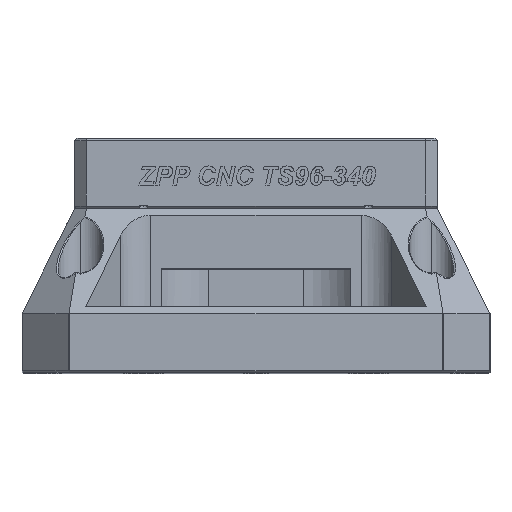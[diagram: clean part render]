
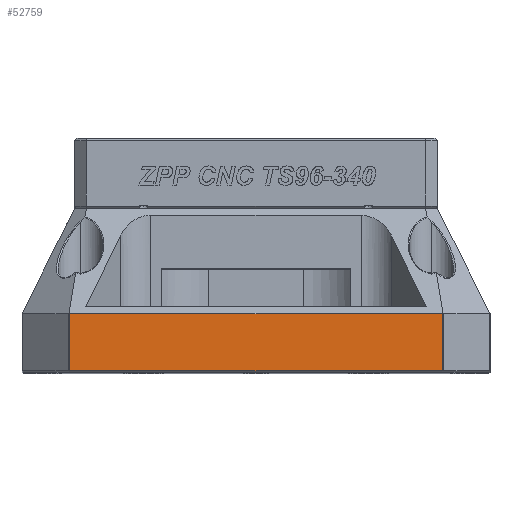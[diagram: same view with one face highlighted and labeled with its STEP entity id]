
A CAD part, top view. The second image highlights one B-rep face of the part: STEP entity #52759.
In plain terms, the highlighted planar face has unit normal (0, 0, 1) as drawn and (1, 0, 0) by its records, which use the part's own axes.
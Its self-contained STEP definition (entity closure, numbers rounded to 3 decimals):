
#31793=CARTESIAN_POINT('',(215.,25.,-79.586));
#31801=CARTESIAN_POINT('',(215.,25.,79.586));
#34616=DIRECTION('',(0.,0.,-1.));
#34617=VECTOR('',#34616,159.172);
#34618=CARTESIAN_POINT('',(215.,0.6,
79.586));
#34619=LINE('',#34618,#34617);
#34620=DIRECTION('',(0.,1.,0.));
#34621=VECTOR('',#34620,24.4);
#34622=CARTESIAN_POINT('',(215.,0.6,
79.586));
#34623=LINE('',#34622,#34621);
#34624=DIRECTION('',(0.,0.,1.));
#34625=VECTOR('',#34624,159.172);
#34626=CARTESIAN_POINT('',(215.,25.,-79.586));
#34627=LINE('',#34626,#34625);
#34628=DIRECTION('',(0.,-1.,0.));
#34629=VECTOR('',#34628,24.4);
#34630=CARTESIAN_POINT('',(215.,25.,-79.586));
#34631=LINE('',#34630,#34629);
#44798=VERTEX_POINT('',#31801);
#44799=VERTEX_POINT('',#31793);
#44849=CARTESIAN_POINT('',(215.,0.6,79.586));
#44850=VERTEX_POINT('',#44849);
#44853=CARTESIAN_POINT('',(215.,0.6,
-79.586));
#44854=VERTEX_POINT('',#44853);
#52746=CARTESIAN_POINT('',(215.,0.,100.));
#52747=DIRECTION('',(-1.,0.,0.));
#52748=DIRECTION('',(0.,0.,1.));
#52749=AXIS2_PLACEMENT_3D('',#52746,#52747,#52748);
#52750=PLANE('',#52749);
#52752=ORIENTED_EDGE('',*,*,#52751,.F.);
#52753=ORIENTED_EDGE('',*,*,#52741,.T.);
#52754=ORIENTED_EDGE('',*,*,#48453,.F.);
#52756=ORIENTED_EDGE('',*,*,#52755,.T.);
#52757=EDGE_LOOP('',(#52752,#52753,#52754,#52756));
#52758=FACE_OUTER_BOUND('',#52757,.F.);
#52759=ADVANCED_FACE('',(#52758),#52750,.F.);
#48453=EDGE_CURVE('',#44799,#44798,#34627,.T.);
#52741=EDGE_CURVE('',#44850,#44798,#34623,.T.);
#52751=EDGE_CURVE('',#44850,#44854,#34619,.T.);
#52755=EDGE_CURVE('',#44799,#44854,#34631,.T.);
